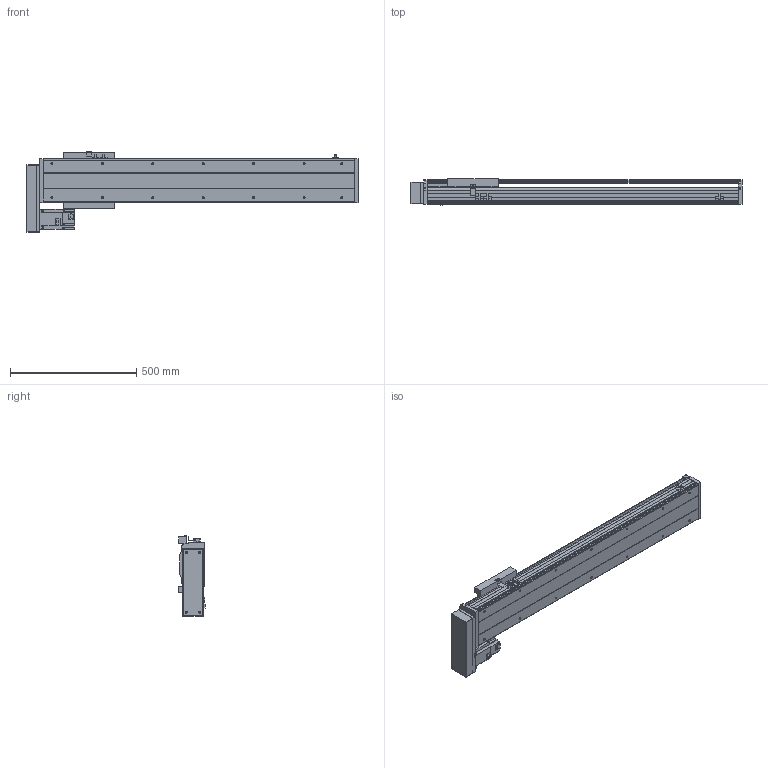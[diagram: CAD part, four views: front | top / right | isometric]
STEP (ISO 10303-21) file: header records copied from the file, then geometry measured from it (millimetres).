
FILE_DESCRIPTION(/* description */ ('STEP AP214'),/* implementation_level */ '2;1');
FILE_NAME(/* name */ 'PSS200-L10-S900-BR-T75-C1-N(0)',/* time_stamp */ '2022-06-09T03:16:46+02:00',/* author */ ('License CC BY-ND 4.0'),/* organization */ ('CADENAS'),/* preprocessor_version */ 'ST-DEVELOPER v18.102',/* originating_system */ 'PARTsolutions',/* authorisation */ ' ');
FILE_SCHEMA (('AUTOMOTIVE_DESIGN {1 0 10303 214 3 1 1}'));
Length unit declared in the file: millimetre
Products named in the file (8): PSS200-L10-S900-BR-T75-C1-N(0); PSS200-S900-BR-N_S; T75-p1; PSS200BR-N_h; PSS200-N_sensor; PSS200-BR-C1-N_sl; PSS200-N_Q; PSS200-S900-BR-C1-N_body
Assembly tree (9 placements, depth 2):
  PSS200-L10-S900-BR-T75-C1-N(0)
    PSS200-S900-BR-N_S
    T75-p1
    PSS200BR-N_h
    PSS200-N_sensor  x3
    PSS200-BR-C1-N_sl
    PSS200-N_Q
    PSS200-S900-BR-C1-N_body
Bounding box: 1316.85 x 105.3 x 317.86 mm (x, y, z)
Volume: 8975011.2 mm3; surface area: 2086531.4 mm2
Topology: 9 solids, 9 shells, 608 faces, 1621 edges, 1070 vertices
Faces by surface type: plane 466, cylinder 116, cone 22, sphere 4
Full cylindrical faces by diameter (mm): 4 x2, 4.5 x4, 6 x7, 6.647 x18, 7.4 x4, 8 x8, 10 x6, 25 x1, 40 x1, 67 x1
Entity records: 16833 total; most frequent: CARTESIAN_POINT 2891, DIRECTION 2792, ORIENTED_EDGE 2750, EDGE_CURVE 1375, LINE 1090, VECTOR 1090, VERTEX_POINT 950, AXIS2_PLACEMENT_3D 851
